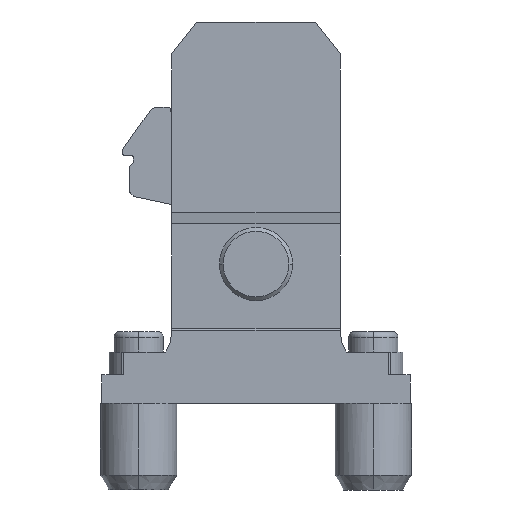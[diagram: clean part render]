
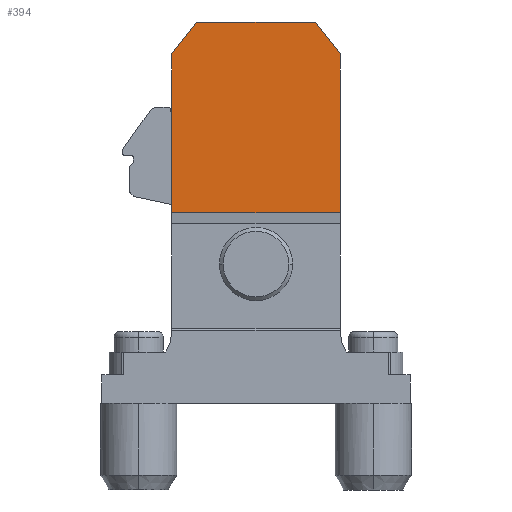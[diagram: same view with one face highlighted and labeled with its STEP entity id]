
A CAD part, left-side view. The second image highlights one B-rep face of the part: STEP entity #394.
In plain terms, the highlighted planar face has unit normal (-1, 0, 0).
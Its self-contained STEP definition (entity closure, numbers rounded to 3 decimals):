
#10 = VERTEX_POINT ( 'NONE', #1442 ) ;
#69 = CARTESIAN_POINT ( 'NONE',  ( -2.2, -8.1, 52. ) ) ;
#105 = ORIENTED_EDGE ( 'NONE', *, *, #2529, .F. ) ;
#310 = LINE ( 'NONE', #2496, #1468 ) ;
#327 = VERTEX_POINT ( 'NONE', #1520 ) ;
#381 = LINE ( 'NONE', #1581, #2224 ) ;
#389 = EDGE_CURVE ( 'NONE', #667, #10, #310, .T. ) ;
#394 = ADVANCED_FACE ( 'NONE', ( #2090 ), #615, .T. ) ;
#411 = EDGE_CURVE ( 'NONE', #1931, #667, #2167, .T. ) ;
#419 = DIRECTION ( 'NONE',  ( 0., -0.616, 0.788 ) ) ;
#470 = ORIENTED_EDGE ( 'NONE', *, *, #411, .F. ) ;
#556 = DIRECTION ( 'NONE',  ( -1., 0., 0. ) ) ;
#597 = LINE ( 'NONE', #2364, #2526 ) ;
#615 = PLANE ( 'NONE',  #1641 ) ;
#639 = DIRECTION ( 'NONE',  ( 0., 0., 1. ) ) ;
#667 = VERTEX_POINT ( 'NONE', #1947 ) ;
#808 = EDGE_CURVE ( 'NONE', #1197, #327, #1660, .T. ) ;
#860 = DIRECTION ( 'NONE',  ( 0., 1., 0. ) ) ;
#975 = DIRECTION ( 'NONE',  ( 0., -1., 0. ) ) ;
#984 = VERTEX_POINT ( 'NONE', #2533 ) ;
#1040 = VECTOR ( 'NONE', #1990, 1000. ) ;
#1053 = ORIENTED_EDGE ( 'NONE', *, *, #808, .F. ) ;
#1137 = ORIENTED_EDGE ( 'NONE', *, *, #2119, .F. ) ;
#1187 = EDGE_LOOP ( 'NONE', ( #470, #1137, #1053, #105, #2709, #1238 ) ) ;
#1197 = VERTEX_POINT ( 'NONE', #69 ) ;
#1238 = ORIENTED_EDGE ( 'NONE', *, *, #389, .F. ) ;
#1442 = CARTESIAN_POINT ( 'NONE',  ( -2.2, 11.5, 47.648 ) ) ;
#1468 = VECTOR ( 'NONE', #639, 1000. ) ;
#1518 = CARTESIAN_POINT ( 'NONE',  ( -2.2, -8.1, 52. ) ) ;
#1520 = CARTESIAN_POINT ( 'NONE',  ( -2.2, -11.5, 47.648 ) ) ;
#1525 = EDGE_CURVE ( 'NONE', #10, #984, #381, .T. ) ;
#1567 = VECTOR ( 'NONE', #1935, 1000. ) ;
#1581 = CARTESIAN_POINT ( 'NONE',  ( -2.2, 11.5, 47.648 ) ) ;
#1641 = AXIS2_PLACEMENT_3D ( 'NONE', #2930, #556, #2179 ) ;
#1660 = LINE ( 'NONE', #1518, #1040 ) ;
#1705 = CARTESIAN_POINT ( 'NONE',  ( -2.2, -11.5, 47.648 ) ) ;
#1721 = CARTESIAN_POINT ( 'NONE',  ( -2.2, -27.501, 26. ) ) ;
#1827 = LINE ( 'NONE', #1705, #1567 ) ;
#1850 = CARTESIAN_POINT ( 'NONE',  ( -2.2, -11.5, 26. ) ) ;
#1931 = VERTEX_POINT ( 'NONE', #1850 ) ;
#1935 = DIRECTION ( 'NONE',  ( 0., 0., -1. ) ) ;
#1947 = CARTESIAN_POINT ( 'NONE',  ( -2.2, 11.5, 26. ) ) ;
#1990 = DIRECTION ( 'NONE',  ( 0., -0.616, -0.788 ) ) ;
#2012 = VECTOR ( 'NONE', #860, 1000. ) ;
#2090 = FACE_OUTER_BOUND ( 'NONE', #1187, .T. ) ;
#2119 = EDGE_CURVE ( 'NONE', #327, #1931, #1827, .T. ) ;
#2167 = LINE ( 'NONE', #1721, #2012 ) ;
#2179 = DIRECTION ( 'NONE',  ( 0., 0., 1. ) ) ;
#2224 = VECTOR ( 'NONE', #419, 1000. ) ;
#2364 = CARTESIAN_POINT ( 'NONE',  ( -2.2, 8.1, 52. ) ) ;
#2496 = CARTESIAN_POINT ( 'NONE',  ( -2.2, 11.5, 10. ) ) ;
#2526 = VECTOR ( 'NONE', #975, 1000. ) ;
#2529 = EDGE_CURVE ( 'NONE', #984, #1197, #597, .T. ) ;
#2533 = CARTESIAN_POINT ( 'NONE',  ( -2.2, 8.1, 52. ) ) ;
#2709 = ORIENTED_EDGE ( 'NONE', *, *, #1525, .F. ) ;
#2930 = CARTESIAN_POINT ( 'NONE',  ( -2.2, 39.001, 52. ) ) ;
